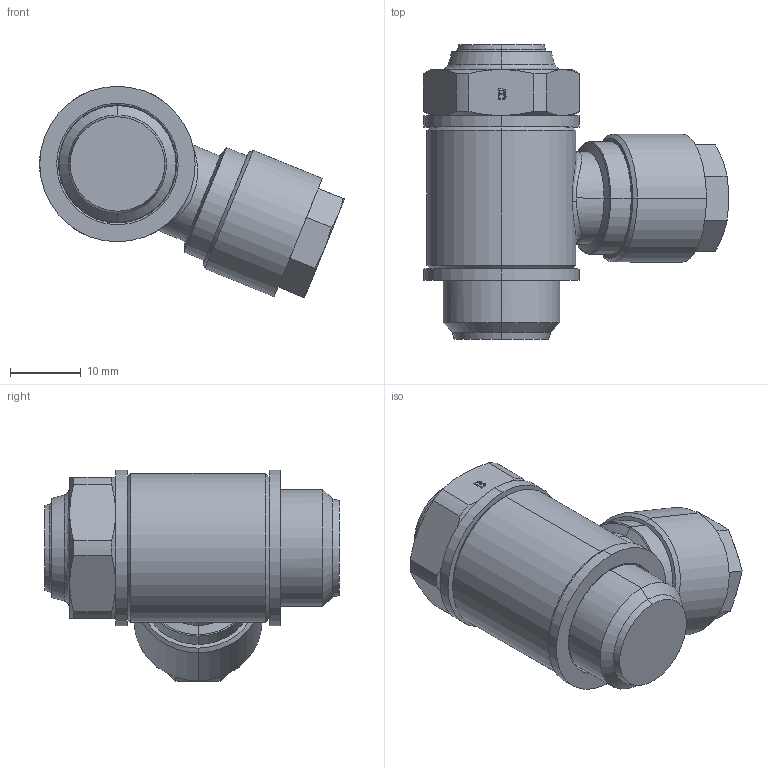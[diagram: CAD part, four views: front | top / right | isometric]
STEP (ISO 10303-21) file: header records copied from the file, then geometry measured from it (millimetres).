
FILE_DESCRIPTION (( 'STEP AP203' ), '1' );
FILE_NAME ('249880.STEP', '2016-08-10T08:49:56', ( '' ), ( '' ), 'SwSTEP 2.0', 'SolidWorks 2016', '' );
FILE_SCHEMA (( 'CONFIG_CONTROL_DESIGN' ));
Length unit declared in the file: millimetre
Products named in the file (1): 249880
Bounding box: 42.99 x 41.5 x 29.79 mm (x, y, z)
Volume: 17161.1 mm3; surface area: 4874.7 mm2
Topology: 1 solids, 1 shells, 140 faces, 353 edges, 222 vertices
Faces by surface type: plane 50, cone 36, cylinder 34, bspline 20
Entity records: 6232 total; most frequent: CARTESIAN_POINT 2880, ORIENTED_EDGE 706, DIRECTION 659, EDGE_CURVE 353, AXIS2_PLACEMENT_3D 269, VERTEX_POINT 222, EDGE_LOOP 159, CIRCLE 148
